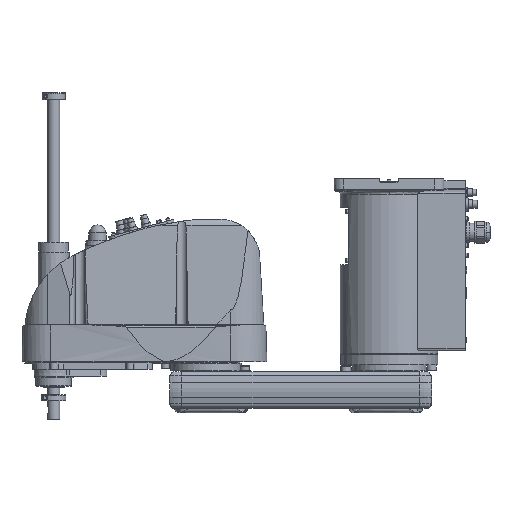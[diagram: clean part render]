
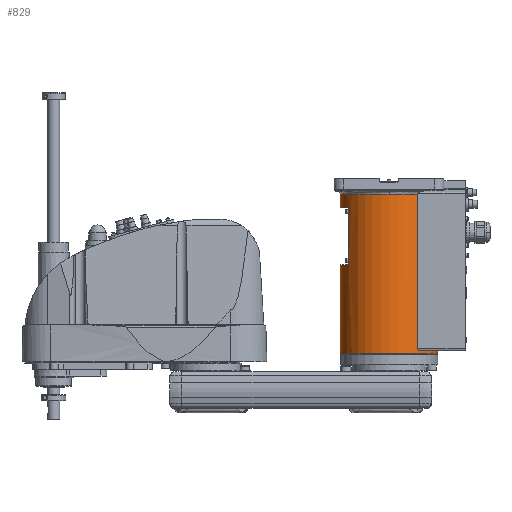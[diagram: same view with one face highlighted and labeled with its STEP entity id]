
A CAD part, top view. The second image highlights one B-rep face of the part: STEP entity #829.
In plain terms, the highlighted cylindrical face has radius 80 mm (diameter 160 mm), a partial arc.
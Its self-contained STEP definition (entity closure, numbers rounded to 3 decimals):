
#829 = ADVANCED_FACE( '', ( #3153 ), #3154, .T. );
#3153 = FACE_OUTER_BOUND( '', #6620, .T. );
#3154 = CYLINDRICAL_SURFACE( '', #6621, 80. );
#6620 = EDGE_LOOP( '', ( #13551, #13552, #13553, #13554, #13555, #13556, #13557, #13558, #13559, #13560, #13561, #13562 ) );
#6621 = AXIS2_PLACEMENT_3D( '', #13563, #13564, #13565 );
#13551 = ORIENTED_EDGE( '', *, *, #21396, .T. );
#13552 = ORIENTED_EDGE( '', *, *, #22755, .T. );
#13553 = ORIENTED_EDGE( '', *, *, #22750, .T. );
#13554 = ORIENTED_EDGE( '', *, *, #22746, .T. );
#13555 = ORIENTED_EDGE( '', *, *, #21447, .F. );
#13556 = ORIENTED_EDGE( '', *, *, #21453, .F. );
#13557 = ORIENTED_EDGE( '', *, *, #21402, .T. );
#13558 = ORIENTED_EDGE( '', *, *, #22557, .T. );
#13559 = ORIENTED_EDGE( '', *, *, #22559, .T. );
#13560 = ORIENTED_EDGE( '', *, *, #22560, .T. );
#13561 = ORIENTED_EDGE( '', *, *, #21398, .T. );
#13562 = ORIENTED_EDGE( '', *, *, #22881, .T. );
#13563 = CARTESIAN_POINT( '', ( 0., 160.75, 0. ) );
#13564 = DIRECTION( '', ( 0., -1., 0. ) );
#13565 = DIRECTION( '', ( 1., 0., 0. ) );
#21396 = EDGE_CURVE( '', #25303, #25304, #25305, .T. );
#21398 = EDGE_CURVE( '', #25308, #25306, #25309, .T. );
#21402 = EDGE_CURVE( '', #25316, #25314, #25317, .T. );
#21447 = EDGE_CURVE( '', #25402, #25404, #25405, .T. );
#21453 = EDGE_CURVE( '', #25316, #25402, #25415, .T. );
#22557 = EDGE_CURVE( '', #25314, #27253, #27255, .T. );
#22559 = EDGE_CURVE( '', #27253, #27256, #27258, .T. );
#22560 = EDGE_CURVE( '', #27256, #25308, #27259, .T. );
#22746 = EDGE_CURVE( '', #27551, #25404, #27552, .T. );
#22750 = EDGE_CURVE( '', #27558, #27551, #27559, .T. );
#22755 = EDGE_CURVE( '', #25304, #27558, #27566, .T. );
#22881 = EDGE_CURVE( '', #25306, #25303, #27761, .T. );
#25303 = VERTEX_POINT( '', #31745 );
#25304 = VERTEX_POINT( '', #31746 );
#25305 = LINE( '', #31747, #31748 );
#25306 = VERTEX_POINT( '', #31749 );
#25308 = VERTEX_POINT( '', #31751 );
#25309 = LINE( '', #31752, #31753 );
#25314 = VERTEX_POINT( '', #31759 );
#25316 = VERTEX_POINT( '', #31761 );
#25317 = LINE( '', #31762, #31763 );
#25402 = VERTEX_POINT( '', #31884 );
#25404 = VERTEX_POINT( '', #31886 );
#25405 = CIRCLE( '', #31887, 80. );
#25415 = CIRCLE( '', #31934, 80. );
#27253 = VERTEX_POINT( '', #34524 );
#27255 = CIRCLE( '', #34527, 80. );
#27256 = VERTEX_POINT( '', #34528 );
#27258 = LINE( '', #34531, #34532 );
#27259 = CIRCLE( '', #34533, 80. );
#27551 = VERTEX_POINT( '', #35018 );
#27552 = LINE( '', #35019, #35020 );
#27558 = VERTEX_POINT( '', #35029 );
#27559 = B_SPLINE_CURVE_WITH_KNOTS( '', 3, ( #35030, #35031, #35032, #35033, #35034, #35035, #35036, #35037, #35038, #35039, #35040, #35041, #35042, #35043, #35044, #35045 ), .UNSPECIFIED., .F., .F., ( 4, 2, 2, 2, 2, 2, 2, 4 ), ( -6.06, -5.11, -4.16, -2.26, -1.695, -1.13, -0.565, 0. ), .UNSPECIFIED. );
#27566 = CIRCLE( '', #35055, 80. );
#27761 = CIRCLE( '', #35457, 80. );
#31745 = CARTESIAN_POINT( '', ( 80., 30., 0. ) );
#31746 = CARTESIAN_POINT( '', ( 80., 34.5, 0. ) );
#31747 = CARTESIAN_POINT( '', ( 80., 160.75, 0. ) );
#31748 = VECTOR( '', #44184, 1. );
#31749 = CARTESIAN_POINT( '', ( -80., 30., 0. ) );
#31751 = CARTESIAN_POINT( '', ( -80., 176., 0. ) );
#31752 = CARTESIAN_POINT( '', ( -80., 160.75, 0. ) );
#31753 = VECTOR( '', #44188, 1. );
#31759 = CARTESIAN_POINT( '', ( -80., 269., 0. ) );
#31761 = CARTESIAN_POINT( '', ( -80., 291.5, 0. ) );
#31762 = CARTESIAN_POINT( '', ( -80., 160.75, 0. ) );
#31763 = VECTOR( '', #44196, 1. );
#31884 = CARTESIAN_POINT( '', ( 0., 291.5, 80. ) );
#31886 = CARTESIAN_POINT( '', ( 46.637, 291.5, 65. ) );
#31887 = AXIS2_PLACEMENT_3D( '', #44284, #44285, #44286 );
#31934 = AXIS2_PLACEMENT_3D( '', #44293, #44294, #44295 );
#34524 = CARTESIAN_POINT( '', ( -66., 269., 45.211 ) );
#34527 = AXIS2_PLACEMENT_3D( '', #46191, #46192, #46193 );
#34528 = CARTESIAN_POINT( '', ( -66., 176., 45.211 ) );
#34531 = CARTESIAN_POINT( '', ( -66., 222.5, 45.211 ) );
#34532 = VECTOR( '', #46195, 1. );
#34533 = AXIS2_PLACEMENT_3D( '', #46196, #46197, #46198 );
#35018 = CARTESIAN_POINT( '', ( 46.637, 37.5, 65. ) );
#35019 = CARTESIAN_POINT( '', ( 46.637, 164.5, 65. ) );
#35020 = VECTOR( '', #46460, 1. );
#35029 = CARTESIAN_POINT( '', ( 50.557, 34.5, 62. ) );
#35030 = CARTESIAN_POINT( '', ( 50.557, 34.5, 62. ) );
#35031 = CARTESIAN_POINT( '', ( 50.312, 34.5, 62.2 ) );
#35032 = CARTESIAN_POINT( '', ( 50.054, 34.52, 62.407 ) );
#35033 = CARTESIAN_POINT( '', ( 49.533, 34.607, 62.822 ) );
#35034 = CARTESIAN_POINT( '', ( 49.269, 34.674, 63.029 ) );
#35035 = CARTESIAN_POINT( '', ( 48.491, 34.945, 63.632 ) );
#35036 = CARTESIAN_POINT( '', ( 47.991, 35.221, 64.009 ) );
#35037 = CARTESIAN_POINT( '', ( 47.455, 35.701, 64.405 ) );
#35038 = CARTESIAN_POINT( '', ( 47.333, 35.827, 64.495 ) );
#35039 = CARTESIAN_POINT( '', ( 47.106, 36.105, 64.661 ) );
#35040 = CARTESIAN_POINT( '', ( 47.002, 36.258, 64.736 ) );
#35041 = CARTESIAN_POINT( '', ( 46.828, 36.585, 64.863 ) );
#35042 = CARTESIAN_POINT( '', ( 46.758, 36.761, 64.913 ) );
#35043 = CARTESIAN_POINT( '', ( 46.662, 37.124, 64.982 ) );
#35044 = CARTESIAN_POINT( '', ( 46.637, 37.312, 65. ) );
#35045 = CARTESIAN_POINT( '', ( 46.637, 37.5, 65. ) );
#35055 = AXIS2_PLACEMENT_3D( '', #46470, #46471, #46472 );
#35457 = AXIS2_PLACEMENT_3D( '', #46673, #46674, #46675 );
#44184 = DIRECTION( '', ( 0., 1., 0. ) );
#44188 = DIRECTION( '', ( 0., -1., 0. ) );
#44196 = DIRECTION( '', ( 0., -1., 0. ) );
#44284 = CARTESIAN_POINT( '', ( 0., 291.5, 0. ) );
#44285 = DIRECTION( '', ( 0., 1., 0. ) );
#44286 = DIRECTION( '', ( 1., 0., 0. ) );
#44293 = CARTESIAN_POINT( '', ( 0., 291.5, 0. ) );
#44294 = DIRECTION( '', ( 0., 1., 0. ) );
#44295 = DIRECTION( '', ( 1., 0., 0. ) );
#46191 = CARTESIAN_POINT( '', ( 0., 269., 0. ) );
#46192 = DIRECTION( '', ( 0., 1., 0. ) );
#46193 = DIRECTION( '', ( 1., 0., 0. ) );
#46195 = DIRECTION( '', ( 0., -1., 0. ) );
#46196 = CARTESIAN_POINT( '', ( 0., 176., 0. ) );
#46197 = DIRECTION( '', ( 0., -1., 0. ) );
#46198 = DIRECTION( '', ( 1., 0., 0. ) );
#46460 = DIRECTION( '', ( 0., 1., 0. ) );
#46470 = CARTESIAN_POINT( '', ( 0., 34.5, 0. ) );
#46471 = DIRECTION( '', ( 0., -1., 0. ) );
#46472 = DIRECTION( '', ( 1., 0., 0. ) );
#46673 = CARTESIAN_POINT( '', ( 0., 30., 0. ) );
#46674 = DIRECTION( '', ( 0., 1., 0. ) );
#46675 = DIRECTION( '', ( 1., 0., 0. ) );
